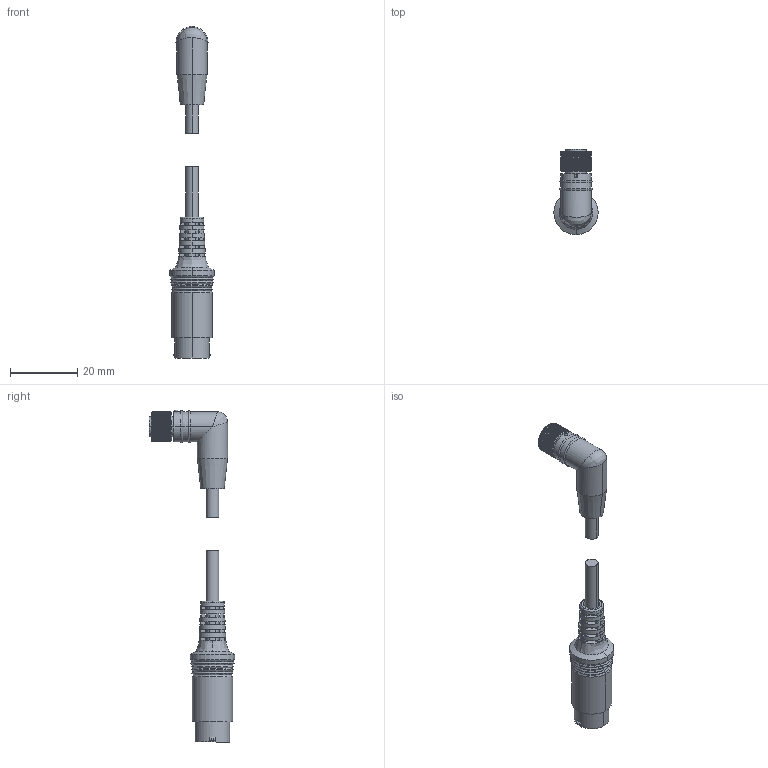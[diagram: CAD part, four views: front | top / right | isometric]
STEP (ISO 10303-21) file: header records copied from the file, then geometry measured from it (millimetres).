
FILE_DESCRIPTION (( 'STEP AP203' ), '1' );
FILE_NAME ('SA-CD-SHLxM_step_01.STEP', '2020-01-27T02:14:53', ( '' ), ( '' ), 'SwSTEP 2.0', 'SolidWorks 2016', '' );
FILE_SCHEMA (( 'CONFIG_CONTROL_DESIGN' ));
Length unit declared in the file: millimetre
Products named in the file (3): アブソ_L型コネクタケーブル_hp; CD1側ケーブル; SA-CD-SHLxM_step_01
Assembly tree (2 placements, depth 2):
  SA-CD-SHLxM_step_01
    アブソ_L型コネクタケーブル_hp
    CD1側ケーブル
Bounding box: 13.2 x 25.4 x 99 mm (x, y, z)
Volume: 5646 mm3; surface area: 3697.9 mm2
Topology: 2 solids, 2 shells, 407 faces, 1176 edges, 769 vertices
Faces by surface type: plane 223, cylinder 106, cone 67, bspline 5, torus 4, sphere 2
Entity records: 14334 total; most frequent: CARTESIAN_POINT 3659, ORIENTED_EDGE 2338, DIRECTION 2007, EDGE_CURVE 1169, AXIS2_PLACEMENT_3D 776, VERTEX_POINT 766, LINE 455, VECTOR 455
